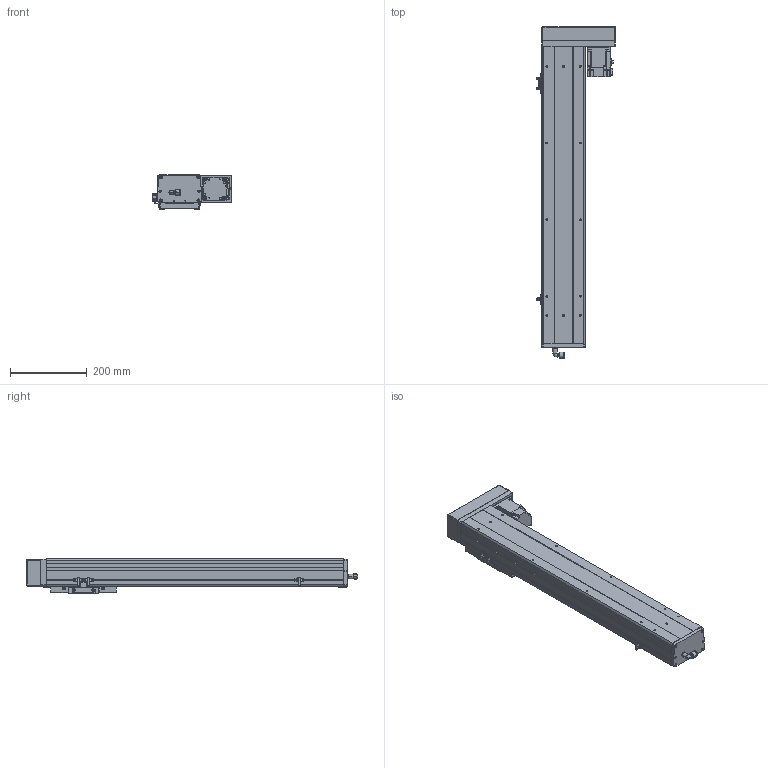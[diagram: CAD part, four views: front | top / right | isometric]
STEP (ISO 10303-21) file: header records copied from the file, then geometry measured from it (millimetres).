
FILE_DESCRIPTION (( 'STEP AP203' ), '1' );
FILE_NAME ('11.STEP', '2021-01-06T03:18:35', ( '' ), ( '' ), 'SwSTEP 2.0', 'SolidWorks 2016', '' );
FILE_SCHEMA (( 'CONFIG_CONTROL_DESIGN' ));
Length unit declared in the file: millimetre
Products named in the file (9): BCH11-BL-04; BCH11-BL-02; BCH11-BL-10; BCH11-BL-01; BCH11-BL-肮祭謫欶; BCH11-BL-M20; BCH11-BL-HZ-01; 11; BCH11-BL-BR-BM-菁釱
Assembly tree (11 placements, depth 2):
  11
    BCH11-BL-BR-BM-菁釱
    BCH11-BL-01
    BCH11-BL-02  x2
    BCH11-BL-04  x3
    BCH11-BL-M20
    BCH11-BL-肮祭謫欶
    BCH11-BL-HZ-01
    BCH11-BL-10
Bounding box: 206.2 x 866.58 x 90 mm (x, y, z)
Volume: 2546536.4 mm3; surface area: 827285.1 mm2
Topology: 25 solids, 25 shells, 1455 faces, 3649 edges, 2300 vertices
Faces by surface type: plane 920, cylinder 403, cone 80, bspline 30, sphere 20, torus 2
Entity records: 36908 total; most frequent: CARTESIAN_POINT 7108, DIRECTION 6035, ORIENTED_EDGE 5822, EDGE_CURVE 2911, VECTOR 2033, LINE 2033, AXIS2_PLACEMENT_3D 2001, VERTEX_POINT 1848
